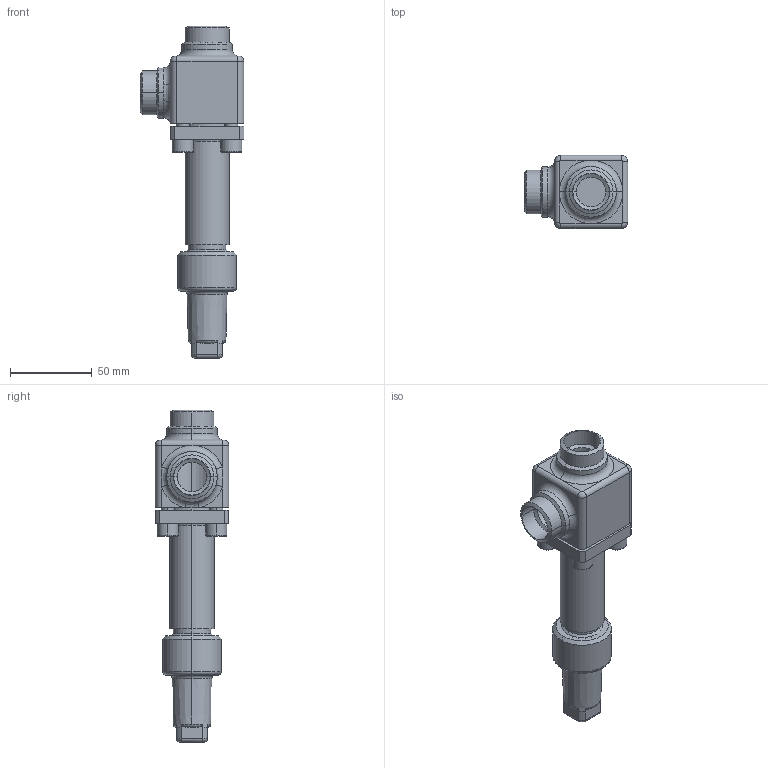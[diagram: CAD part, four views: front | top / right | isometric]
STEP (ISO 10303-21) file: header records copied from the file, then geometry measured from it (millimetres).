
FILE_DESCRIPTION (( 'STEP AP214' ), '1' );
FILE_NAME ('HRAR92410-DN020_R1_PS40.STEP', '2006-05-02T07:37:16', ( 'Herr Grams' ), ( 'AWP GmbH' ), 'SwSTEP 2.0', 'SolidWorks 2002296', '' );
FILE_SCHEMA (( 'AUTOMOTIVE_DESIGN' ));
Length unit declared in the file: millimetre
Products named in the file (6): HRAR92410-DN020_R1_PS40; AVR96310E11_Deck+Schr-DN20_Standard; Deckel96310E11-DN20_PS40_Standard; Zylinderschraube-DIN912_M 8x 20; Gehäuse96400E11-DN20_PS40_R1_Standard; Kappe96300E10_DN6-20_Standard
Assembly tree (8 placements, depth 3):
  HRAR92410-DN020_R1_PS40
    Kappe96300E10_DN6-20_Standard
    AVR96310E11_Deck+Schr-DN20_Standard
      Zylinderschraube-DIN912_M 8x 20  x4
      Deckel96310E11-DN20_PS40_Standard
    Gehäuse96400E11-DN20_PS40_R1_Standard
Bounding box: 63.5 x 45 x 203.5 mm (x, y, z)
Volume: 164758.8 mm3; surface area: 48474.8 mm2
Topology: 7 solids, 7 shells, 230 faces, 513 edges, 314 vertices
Faces by surface type: cylinder 84, plane 81, torus 32, cone 30, bspline 3
Entity records: 8279 total; most frequent: CARTESIAN_POINT 3553, DIRECTION 932, ORIENTED_EDGE 798, EDGE_CURVE 399, AXIS2_PLACEMENT_3D 386, VERTEX_POINT 242, CIRCLE 201, EDGE_LOOP 199
